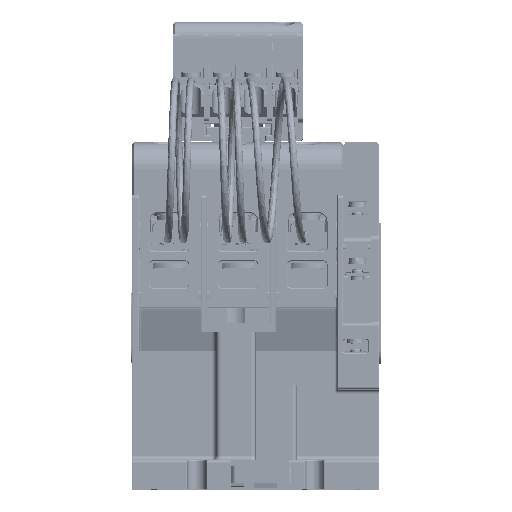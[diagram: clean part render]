
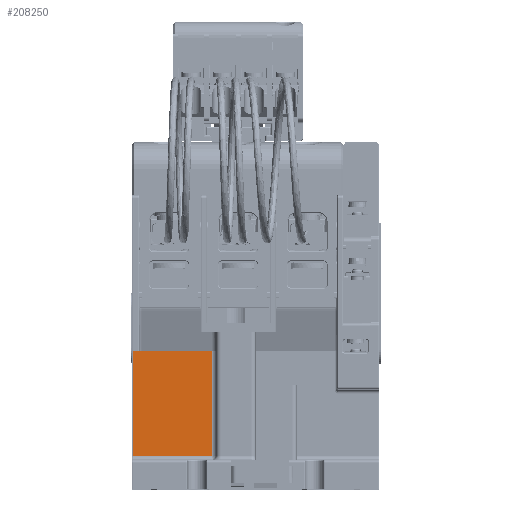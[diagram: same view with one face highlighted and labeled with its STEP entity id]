
A CAD part, top view. The second image highlights one B-rep face of the part: STEP entity #208250.
In plain terms, the highlighted planar face has unit normal (0, 0, 1).
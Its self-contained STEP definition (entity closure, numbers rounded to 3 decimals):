
#32365=DIRECTION('',(1.,0.,0.));
#32366=VECTOR('',#32365,23.9);
#32367=CARTESIAN_POINT('',(-38.8,0.,43.));
#32368=LINE('',#32367,#32366);
#32369=DIRECTION('',(0.,-1.,0.));
#32370=VECTOR('',#32369,35.5);
#32371=CARTESIAN_POINT('',(-14.9,0.,43.));
#32372=LINE('',#32371,#32370);
#32373=DIRECTION('',(1.,0.,0.));
#32374=VECTOR('',#32373,26.9);
#32375=CARTESIAN_POINT('',(-41.8,-35.5,43.));
#32376=LINE('',#32375,#32374);
#32377=DIRECTION('',(0.,-1.,0.));
#32378=VECTOR('',#32377,35.5);
#32379=CARTESIAN_POINT('',(-41.8,0.,43.));
#32380=LINE('',#32379,#32378);
#32381=DIRECTION('',(-1.,0.,0.));
#32382=VECTOR('',#32381,3.);
#32383=CARTESIAN_POINT('',(-38.8,0.,43.));
#32384=LINE('',#32383,#32382);
#138731=CARTESIAN_POINT('',(-14.9,-35.5,43.));
#138733=VERTEX_POINT('',#138731);
#138939=CARTESIAN_POINT('',(-41.8,-35.5,43.));
#138940=VERTEX_POINT('',#138939);
#147884=CARTESIAN_POINT('',(-38.8,0.,43.));
#147885=CARTESIAN_POINT('',(-14.9,0.,43.));
#147886=VERTEX_POINT('',#147884);
#147887=VERTEX_POINT('',#147885);
#148034=CARTESIAN_POINT('',(-41.8,0.,43.));
#148035=VERTEX_POINT('',#148034);
#208234=CARTESIAN_POINT('',(42.1,-13.,43.));
#208235=DIRECTION('',(0.,0.,-1.));
#208236=DIRECTION('',(0.,-1.,0.));
#208237=AXIS2_PLACEMENT_3D('',#208234,#208235,#208236);
#208238=PLANE('',#208237);
#208239=ORIENTED_EDGE('',*,*,#208222,.T.);
#208241=ORIENTED_EDGE('',*,*,#208240,.T.);
#208243=ORIENTED_EDGE('',*,*,#208242,.F.);
#208245=ORIENTED_EDGE('',*,*,#208244,.F.);
#208247=ORIENTED_EDGE('',*,*,#208246,.F.);
#208248=EDGE_LOOP('',(#208239,#208241,#208243,#208245,#208247));
#208249=FACE_OUTER_BOUND('',#208248,.F.);
#208250=ADVANCED_FACE('',(#208249),#208238,.F.);
#208222=EDGE_CURVE('',#147886,#147887,#32368,.T.);
#208240=EDGE_CURVE('',#147887,#138733,#32372,.T.);
#208242=EDGE_CURVE('',#138940,#138733,#32376,.T.);
#208244=EDGE_CURVE('',#148035,#138940,#32380,.T.);
#208246=EDGE_CURVE('',#147886,#148035,#32384,.T.);
